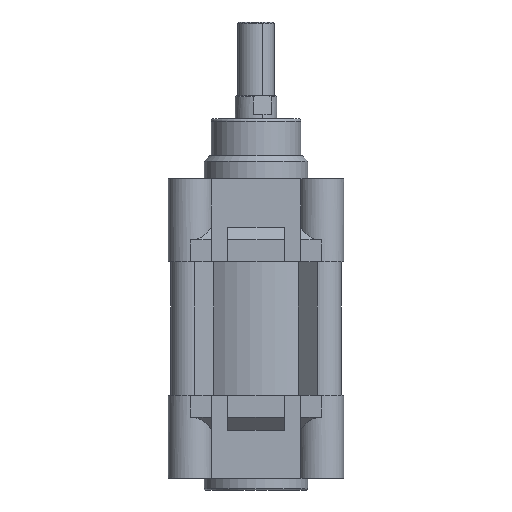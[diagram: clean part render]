
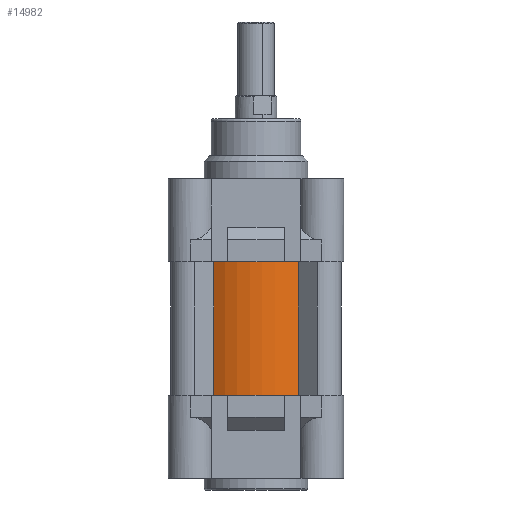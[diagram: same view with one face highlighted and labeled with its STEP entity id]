
A CAD part, front view. The second image highlights one B-rep face of the part: STEP entity #14982.
In plain terms, the highlighted cylindrical face has radius 34 mm (diameter 68 mm), a partial arc.
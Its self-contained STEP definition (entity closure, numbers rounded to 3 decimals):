
#579 = AXIS2_PLACEMENT_3D ( 'NONE', #4437, #1143, #16189 ) ;
#675 = DIRECTION ( 'NONE',  ( 0., 0., 1. ) ) ;
#1079 = DIRECTION ( 'NONE',  ( 0., 0., 1. ) ) ;
#1143 = DIRECTION ( 'NONE',  ( 0., 0., -1. ) ) ;
#1474 = FACE_OUTER_BOUND ( 'NONE', #5584, .T. ) ;
#1541 = VERTEX_POINT ( 'NONE', #3795 ) ;
#2784 = DIRECTION ( 'NONE',  ( 1., 0., 0. ) ) ;
#3319 = LINE ( 'NONE', #6668, #13820 ) ;
#3700 = VERTEX_POINT ( 'NONE', #13281 ) ;
#3795 = CARTESIAN_POINT ( 'NONE',  ( 55.319, 8.357, 0. ) ) ;
#3837 = CARTESIAN_POINT ( 'NONE',  ( 18.681, 8.357, 58. ) ) ;
#4092 = CARTESIAN_POINT ( 'NONE',  ( 18.681, 8.357, 58. ) ) ;
#4269 = ORIENTED_EDGE ( 'NONE', *, *, #20358, .F. ) ;
#4437 = CARTESIAN_POINT ( 'NONE',  ( 37., 37., 58. ) ) ;
#4612 = EDGE_CURVE ( 'NONE', #10259, #1541, #3319, .T. ) ;
#5524 = EDGE_CURVE ( 'NONE', #3700, #1541, #16147, .T. ) ;
#5584 = EDGE_LOOP ( 'NONE', ( #10750, #15028, #4269, #16725 ) ) ;
#5668 = CARTESIAN_POINT ( 'NONE',  ( 37., 37., 58. ) ) ;
#6192 = CYLINDRICAL_SURFACE ( 'NONE', #579, 34. ) ;
#6668 = CARTESIAN_POINT ( 'NONE',  ( 55.319, 8.357, 58. ) ) ;
#7304 = DIRECTION ( 'NONE',  ( 0., 0., -1. ) ) ;
#7614 = AXIS2_PLACEMENT_3D ( 'NONE', #5668, #675, #18842 ) ;
#8130 = VECTOR ( 'NONE', #7304, 1000. ) ;
#9975 = LINE ( 'NONE', #4092, #8130 ) ;
#10124 = VERTEX_POINT ( 'NONE', #3837 ) ;
#10163 = AXIS2_PLACEMENT_3D ( 'NONE', #10990, #1079, #2784 ) ;
#10259 = VERTEX_POINT ( 'NONE', #10896 ) ;
#10750 = ORIENTED_EDGE ( 'NONE', *, *, #5524, .T. ) ;
#10896 = CARTESIAN_POINT ( 'NONE',  ( 55.319, 8.357, 58. ) ) ;
#10990 = CARTESIAN_POINT ( 'NONE',  ( 37., 37., 0. ) ) ;
#11158 = EDGE_CURVE ( 'NONE', #10124, #3700, #9975, .T. ) ;
#12620 = CIRCLE ( 'NONE', #7614, 34. ) ;
#13281 = CARTESIAN_POINT ( 'NONE',  ( 18.681, 8.357, 0. ) ) ;
#13426 = DIRECTION ( 'NONE',  ( 0., 0., -1. ) ) ;
#13820 = VECTOR ( 'NONE', #13426, 1000. ) ;
#14982 = ADVANCED_FACE ( 'NONE', ( #1474 ), #6192, .T. ) ;
#15028 = ORIENTED_EDGE ( 'NONE', *, *, #4612, .F. ) ;
#16147 = CIRCLE ( 'NONE', #10163, 34. ) ;
#16189 = DIRECTION ( 'NONE',  ( -1., 0., 0. ) ) ;
#16725 = ORIENTED_EDGE ( 'NONE', *, *, #11158, .T. ) ;
#18842 = DIRECTION ( 'NONE',  ( 1., 0., 0. ) ) ;
#20358 = EDGE_CURVE ( 'NONE', #10124, #10259, #12620, .T. ) ;
